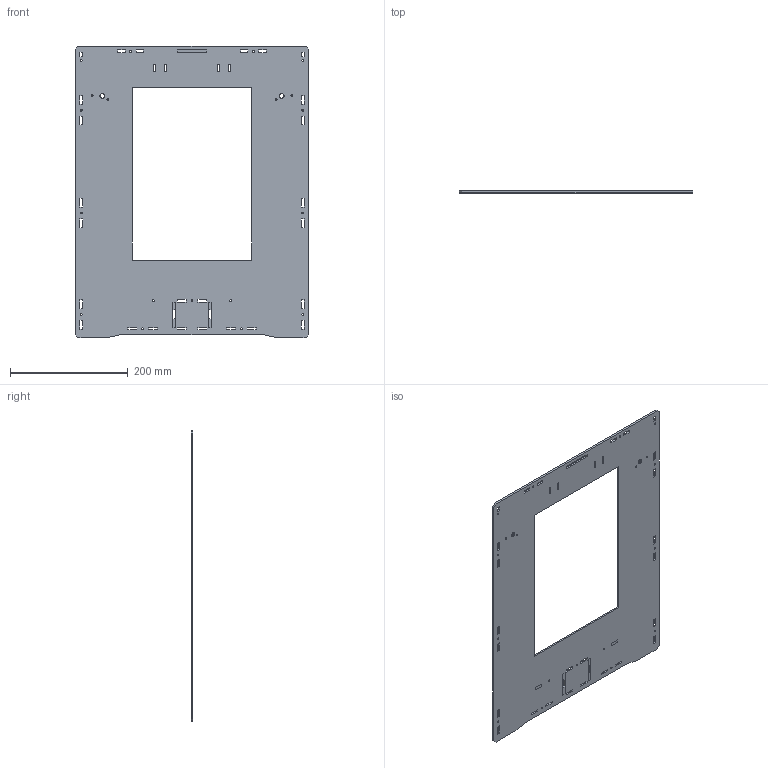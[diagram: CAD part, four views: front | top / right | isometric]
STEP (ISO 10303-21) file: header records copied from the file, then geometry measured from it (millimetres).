
FILE_DESCRIPTION(/* description */ (''),/* implementation_level */ '2;1');
FILE_NAME(/* name */ 'TAPATR~1',/* time_stamp */ '2019-04-01T20:00:27-03:00',/* author */ (''),/* organization */ (''),/* preprocessor_version */ 'ST-DEVELOPER v16.5',/* originating_system */ '',/* authorisation */ '');
FILE_SCHEMA (('AUTOMOTIVE_DESIGN'));
Length unit declared in the file: millimetre
Products named in the file (1): Document
Bounding box: 398 x 3 x 496.35 mm (x, y, z)
Volume: 401349.6 mm3; surface area: 281476.9 mm2
Topology: 1 solids, 1 shells, 209 faces, 612 edges, 408 vertices
Faces by surface type: plane 153, bspline 56
Entity records: 6714 total; most frequent: CARTESIAN_POINT 2702, ORIENTED_EDGE 1224, EDGE_CURVE 612, B_SPLINE_CURVE_WITH_KNOTS 444, VERTEX_POINT 408, EDGE_LOOP 320, ADVANCED_FACE 209, FACE_OUTER_BOUND 209
